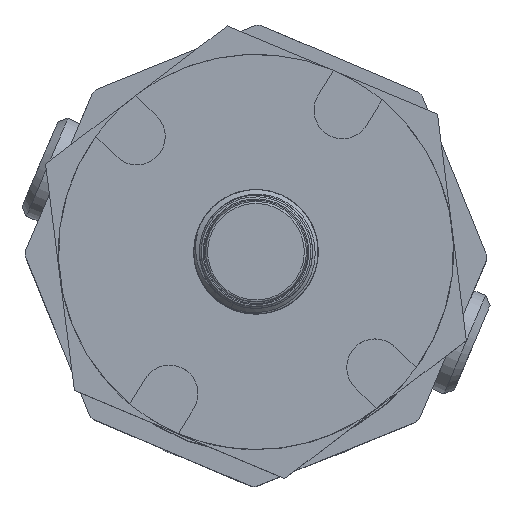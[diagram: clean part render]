
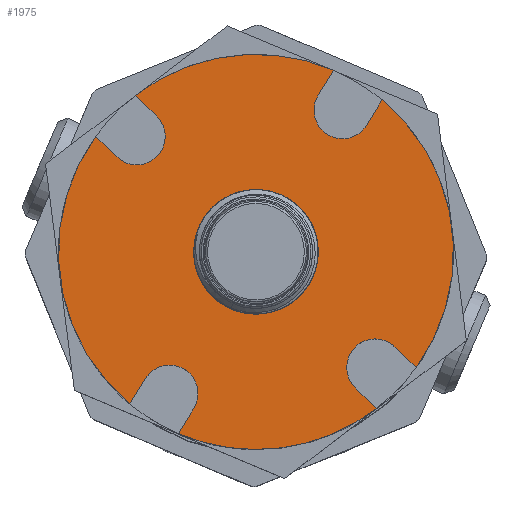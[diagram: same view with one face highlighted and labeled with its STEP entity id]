
A CAD part, top view. The second image highlights one B-rep face of the part: STEP entity #1975.
In plain terms, the highlighted planar face has unit normal (0, 0, 1).
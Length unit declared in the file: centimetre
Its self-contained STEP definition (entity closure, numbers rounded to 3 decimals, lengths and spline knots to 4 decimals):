
#50=FACE_BOUND('',#337,.T.);
#100=PLANE('',#2199);
#209=FACE_OUTER_BOUND('',#336,.T.);
#336=EDGE_LOOP('',(#1675,#1676,#1677,#1678,#1679,#1680,#1681,#1682,#1683,
#1684,#1685,#1686,#1687,#1688,#1689,#1690,#1691));
#337=EDGE_LOOP('',(#1692));
#426=CIRCLE('',#2176,0.53);
#439=CIRCLE('',#2200,0.275);
#440=CIRCLE('',#2201,1.905);
#441=CIRCLE('',#2202,0.275);
#442=CIRCLE('',#2203,1.905);
#443=CIRCLE('',#2204,1.905);
#444=CIRCLE('',#2205,0.275);
#445=CIRCLE('',#2206,1.905);
#446=CIRCLE('',#2207,0.275);
#447=CIRCLE('',#2208,1.905);
#599=LINE('',#8832,#747);
#600=LINE('',#8836,#748);
#601=LINE('',#8840,#749);
#602=LINE('',#8844,#750);
#603=LINE('',#8850,#751);
#604=LINE('',#8854,#752);
#605=LINE('',#8858,#753);
#606=LINE('',#8862,#754);
#747=VECTOR('',#2663,1.);
#748=VECTOR('',#2666,1.);
#749=VECTOR('',#2669,1.);
#750=VECTOR('',#2672,1.);
#751=VECTOR('',#2677,1.);
#752=VECTOR('',#2680,1.);
#753=VECTOR('',#2683,1.);
#754=VECTOR('',#2686,1.);
#909=VERTEX_POINT('',#3964);
#935=VERTEX_POINT('',#8830);
#936=VERTEX_POINT('',#8831);
#937=VERTEX_POINT('',#8833);
#938=VERTEX_POINT('',#8835);
#939=VERTEX_POINT('',#8837);
#940=VERTEX_POINT('',#8839);
#941=VERTEX_POINT('',#8841);
#942=VERTEX_POINT('',#8843);
#943=VERTEX_POINT('',#8845);
#944=VERTEX_POINT('',#8847);
#945=VERTEX_POINT('',#8849);
#946=VERTEX_POINT('',#8851);
#947=VERTEX_POINT('',#8853);
#948=VERTEX_POINT('',#8855);
#949=VERTEX_POINT('',#8857);
#950=VERTEX_POINT('',#8859);
#951=VERTEX_POINT('',#8861);
#1148=EDGE_CURVE('',#909,#909,#426,.T.);
#1193=EDGE_CURVE('',#935,#936,#599,.T.);
#1194=EDGE_CURVE('',#936,#937,#439,.T.);
#1195=EDGE_CURVE('',#937,#938,#600,.T.);
#1196=EDGE_CURVE('',#938,#939,#440,.T.);
#1197=EDGE_CURVE('',#939,#940,#601,.T.);
#1198=EDGE_CURVE('',#940,#941,#441,.T.);
#1199=EDGE_CURVE('',#941,#942,#602,.T.);
#1200=EDGE_CURVE('',#942,#943,#442,.T.);
#1201=EDGE_CURVE('',#943,#944,#443,.T.);
#1202=EDGE_CURVE('',#944,#945,#603,.T.);
#1203=EDGE_CURVE('',#945,#946,#444,.T.);
#1204=EDGE_CURVE('',#946,#947,#604,.T.);
#1205=EDGE_CURVE('',#947,#948,#445,.T.);
#1206=EDGE_CURVE('',#948,#949,#605,.T.);
#1207=EDGE_CURVE('',#949,#950,#446,.T.);
#1208=EDGE_CURVE('',#950,#951,#606,.T.);
#1209=EDGE_CURVE('',#951,#935,#447,.T.);
#1675=ORIENTED_EDGE('',*,*,#1193,.T.);
#1676=ORIENTED_EDGE('',*,*,#1194,.T.);
#1677=ORIENTED_EDGE('',*,*,#1195,.T.);
#1678=ORIENTED_EDGE('',*,*,#1196,.T.);
#1679=ORIENTED_EDGE('',*,*,#1197,.T.);
#1680=ORIENTED_EDGE('',*,*,#1198,.T.);
#1681=ORIENTED_EDGE('',*,*,#1199,.T.);
#1682=ORIENTED_EDGE('',*,*,#1200,.T.);
#1683=ORIENTED_EDGE('',*,*,#1201,.T.);
#1684=ORIENTED_EDGE('',*,*,#1202,.T.);
#1685=ORIENTED_EDGE('',*,*,#1203,.T.);
#1686=ORIENTED_EDGE('',*,*,#1204,.T.);
#1687=ORIENTED_EDGE('',*,*,#1205,.T.);
#1688=ORIENTED_EDGE('',*,*,#1206,.T.);
#1689=ORIENTED_EDGE('',*,*,#1207,.T.);
#1690=ORIENTED_EDGE('',*,*,#1208,.T.);
#1691=ORIENTED_EDGE('',*,*,#1209,.T.);
#1692=ORIENTED_EDGE('',*,*,#1148,.T.);
#1975=ADVANCED_FACE('',(#209,#50),#100,.F.);
#2176=AXIS2_PLACEMENT_3D('',#3965,#2603,#2604);
#2199=AXIS2_PLACEMENT_3D('',#8829,#2661,#2662);
#2200=AXIS2_PLACEMENT_3D('',#8834,#2664,#2665);
#2201=AXIS2_PLACEMENT_3D('',#8838,#2667,#2668);
#2202=AXIS2_PLACEMENT_3D('',#8842,#2670,#2671);
#2203=AXIS2_PLACEMENT_3D('',#8846,#2673,#2674);
#2204=AXIS2_PLACEMENT_3D('',#8848,#2675,#2676);
#2205=AXIS2_PLACEMENT_3D('',#8852,#2678,#2679);
#2206=AXIS2_PLACEMENT_3D('',#8856,#2681,#2682);
#2207=AXIS2_PLACEMENT_3D('',#8860,#2684,#2685);
#2208=AXIS2_PLACEMENT_3D('',#8863,#2687,#2688);
#2603=DIRECTION('center_axis',(0.,0.,
-1.));
#2604=DIRECTION('ref_axis',(-0.403,-0.915,0.));
#2661=DIRECTION('center_axis',(0.,0.,
-1.));
#2662=DIRECTION('ref_axis',(-0.992,-0.126,0.));
#2663=DIRECTION('',(0.718,-0.696,0.));
#2664=DIRECTION('center_axis',(0.,0.,
-1.));
#2665=DIRECTION('ref_axis',(-0.126,0.992,0.));
#2666=DIRECTION('',(-0.718,0.696,0.));
#2667=DIRECTION('center_axis',(0.,0.,
1.));
#2668=DIRECTION('ref_axis',(-0.126,0.992,0.));
#2669=DIRECTION('',(0.521,0.854,0.));
#2670=DIRECTION('center_axis',(0.,0.,
-1.));
#2671=DIRECTION('ref_axis',(-0.126,0.992,0.));
#2672=DIRECTION('',(-0.521,-0.854,0.));
#2673=DIRECTION('center_axis',(0.,0.,
1.));
#2674=DIRECTION('ref_axis',(-0.126,0.992,0.));
#2675=DIRECTION('center_axis',(0.,0.,
1.));
#2676=DIRECTION('ref_axis',(-0.126,0.992,0.));
#2677=DIRECTION('',(-0.718,0.696,0.));
#2678=DIRECTION('center_axis',(0.,0.,
-1.));
#2679=DIRECTION('ref_axis',(-0.126,0.992,0.));
#2680=DIRECTION('',(0.718,-0.696,0.));
#2681=DIRECTION('center_axis',(0.,0.,
1.));
#2682=DIRECTION('ref_axis',(-0.126,0.992,0.));
#2683=DIRECTION('',(-0.521,-0.854,0.));
#2684=DIRECTION('center_axis',(0.,0.,
-1.));
#2685=DIRECTION('ref_axis',(-0.126,0.992,0.));
#2686=DIRECTION('',(0.521,0.854,0.));
#2687=DIRECTION('center_axis',(0.,0.,
1.));
#2688=DIRECTION('ref_axis',(-0.126,0.992,0.));
#3964=CARTESIAN_POINT('',(0.2138,0.485,5.1308));
#3965=CARTESIAN_POINT('Origin',(0.,0.,
5.1308));
#8829=CARTESIAN_POINT('Origin',(0.,0.,
5.1308));
#8830=CARTESIAN_POINT('',(-1.1632,1.5086,5.1308));
#8831=CARTESIAN_POINT('',(-0.9714,1.3228,5.1308));
#8832=CARTESIAN_POINT('',(-0.384,0.754,5.1308));
#8833=CARTESIAN_POINT('',(-1.3533,0.9285,5.1308));
#8834=CARTESIAN_POINT('Origin',(-1.1499,1.1136,5.1308));
#8835=CARTESIAN_POINT('',(-1.5451,1.1143,5.1308));
#8836=CARTESIAN_POINT('',(-0.8752,0.4655,5.1308));
#8837=CARTESIAN_POINT('',(-1.2165,-1.466,5.1308));
#8838=CARTESIAN_POINT('Origin',(0.,0.,
5.1308));
#8839=CARTESIAN_POINT('',(-1.0773,-1.2381,5.1308));
#8840=CARTESIAN_POINT('',(-0.6513,-0.5402,5.1308));
#8841=CARTESIAN_POINT('',(-0.6088,-1.5241,5.1308));
#8842=CARTESIAN_POINT('Origin',(-0.834,-1.3663,5.1308));
#8843=CARTESIAN_POINT('',(-0.7479,-1.752,5.1308));
#8844=CARTESIAN_POINT('',(-0.262,-0.956,5.1308));
#8845=CARTESIAN_POINT('',(0.2407,-1.8897,5.1308));
#8846=CARTESIAN_POINT('Origin',(0.,0.,
5.1308));
#8847=CARTESIAN_POINT('',(1.1632,-1.5086,5.1308));
#8848=CARTESIAN_POINT('Origin',(0.,0.,
5.1308));
#8849=CARTESIAN_POINT('',(0.9714,-1.3228,5.1308));
#8850=CARTESIAN_POINT('',(0.4933,-0.8598,5.1308));
#8851=CARTESIAN_POINT('',(1.3533,-0.9285,5.1308));
#8852=CARTESIAN_POINT('Origin',(1.1499,-1.1136,5.1308));
#8853=CARTESIAN_POINT('',(1.5451,-1.1143,5.1308));
#8854=CARTESIAN_POINT('',(0.7659,-0.3597,5.1308));
#8855=CARTESIAN_POINT('',(1.2165,1.466,5.1308));
#8856=CARTESIAN_POINT('Origin',(0.,0.,
5.1308));
#8857=CARTESIAN_POINT('',(1.0773,1.2381,5.1308));
#8858=CARTESIAN_POINT('',(0.7305,0.67,5.1308));
#8859=CARTESIAN_POINT('',(0.6088,1.5241,5.1308));
#8860=CARTESIAN_POINT('Origin',(0.834,1.3663,5.1308));
#8861=CARTESIAN_POINT('',(0.7479,1.752,5.1308));
#8862=CARTESIAN_POINT('',(0.1828,0.8262,5.1308));
#8863=CARTESIAN_POINT('Origin',(0.,0.,
5.1308));
